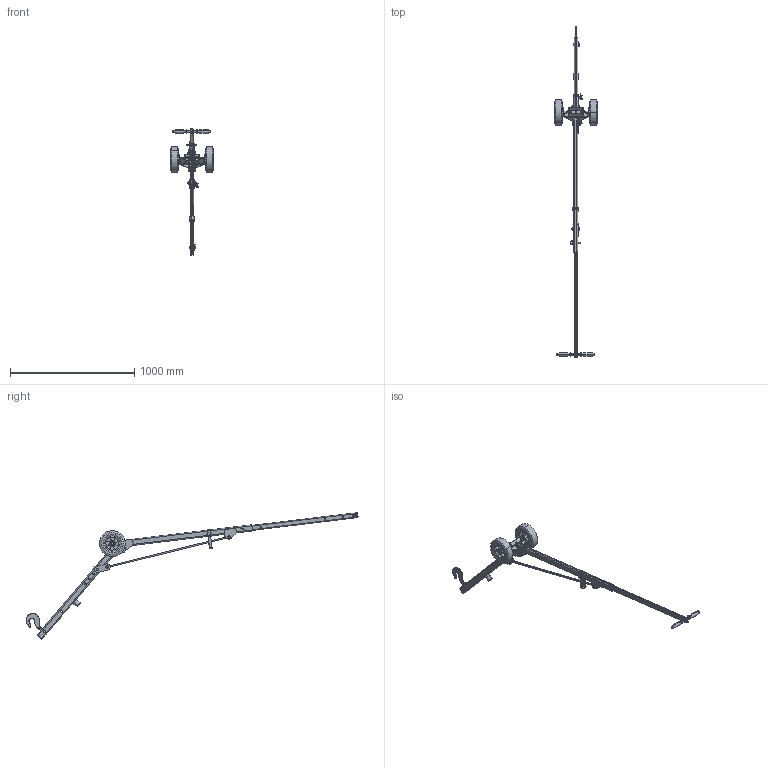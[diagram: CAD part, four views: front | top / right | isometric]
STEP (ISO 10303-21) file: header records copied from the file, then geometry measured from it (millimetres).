
FILE_DESCRIPTION (( 'STEP AP203' ), '1' );
FILE_NAME ('8000433_p.STEP', '2020-03-03T21:45:59', ( '' ), ( '' ), 'SwSTEP 2.0', 'SolidWorks 2018', '' );
FILE_SCHEMA (( 'CONFIG_CONTROL_DESIGN' ));
Products named in the file (1): 8000433_p
Bounding box: 348.6 x 2677.12 x 1020.79 mm (x, y, z)
Surface area: 1272174.7 mm2 (no closed solid volume)
Topology: 0 solids, 83 shells, 711 faces, 2370 edges, 1671 vertices
Faces by surface type: plane 351, cylinder 235, torus 49, cone 41, bspline 35
Entity records: 77835 total; most frequent: CARTESIAN_POINT 57105, DIRECTION 4524, ORIENTED_EDGE 3765, EDGE_CURVE 2368, AXIS2_PLACEMENT_3D 1715, VERTEX_POINT 1671, VECTOR 1094, LINE 1094
